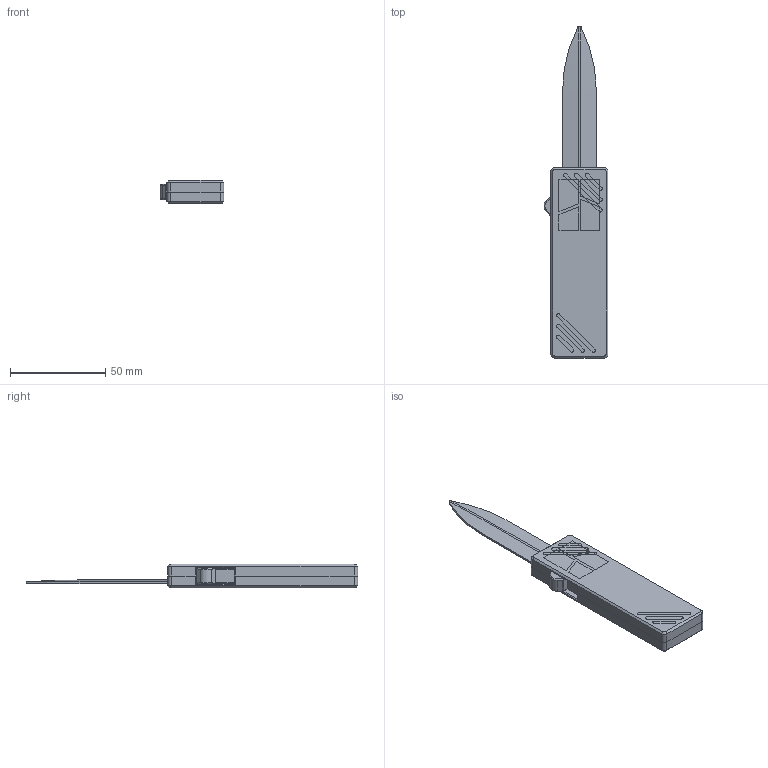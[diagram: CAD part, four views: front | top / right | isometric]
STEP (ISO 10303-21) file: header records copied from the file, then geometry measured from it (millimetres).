
FILE_DESCRIPTION(/* description */ (''),/* implementation_level */ '2;1');
FILE_NAME(/* name */ 'Double Action OTF.step',/* time_stamp */ '2023-12-04T11:51:30+01:00',/* author */ (''),/* organization */ (''),/* preprocessor_version */ 'ST-DEVELOPER v20',/* originating_system */ 'Autodesk Translation Framework v12.14.0.127',/* authorisation */ '');
FILE_SCHEMA (('AUTOMOTIVE_DESIGN { 1 0 10303 214 3 1 1 }'));
Length unit declared in the file: millimetre
Products named in the file (11): Double Action OTF; Body - Stripes - A; Body - Stripes -B; Slider; Blade; Chamfer box template; Design - Stripes; Comb; Body - BL Logo - A; Body - BL Logo - B; Design - Bambu Lab
Assembly tree (10 placements, depth 2):
  Double Action OTF
    Body - Stripes - A
    Body - Stripes -B
    Slider
    Blade
    Chamfer box template
    Design - Stripes
    Comb
    Body - BL Logo - A
    Body - BL Logo - B
    Design - Bambu Lab
Bounding box: 33.63 x 174.49 x 12.4 mm (x, y, z)
Volume: 43214 mm3; surface area: 53942.7 mm2
Topology: 23 solids, 23 shells, 955 faces, 2491 edges, 1630 vertices
Faces by surface type: plane 672, cylinder 242, cone 38, bspline 3
Full cylindrical faces by diameter (mm): 2 x24
Entity records: 29561 total; most frequent: CARTESIAN_POINT 5345, ORIENTED_EDGE 4982, DIRECTION 4932, EDGE_CURVE 2491, LINE 1944, VECTOR 1944, VERTEX_POINT 1630, AXIS2_PLACEMENT_3D 1494
